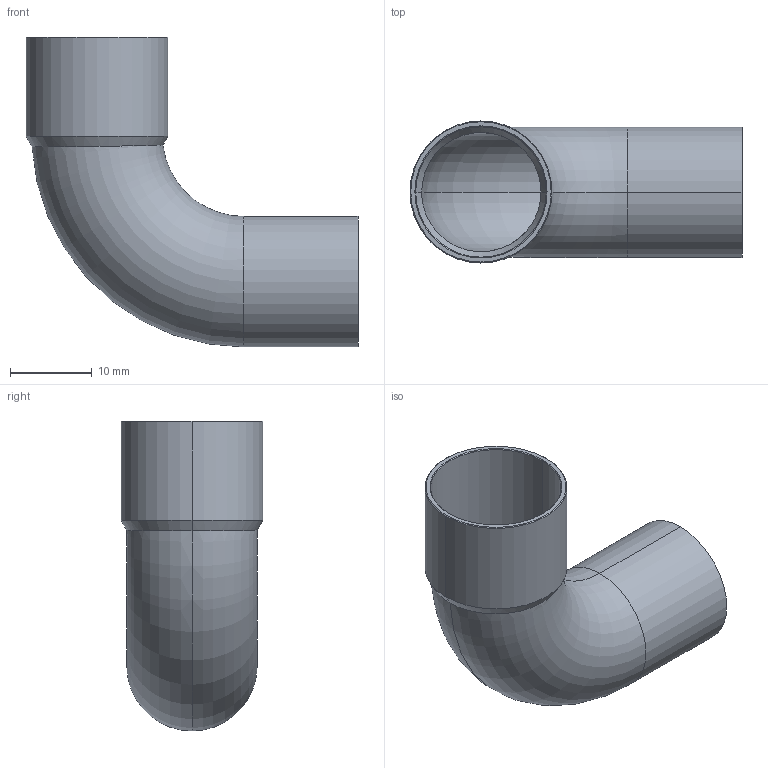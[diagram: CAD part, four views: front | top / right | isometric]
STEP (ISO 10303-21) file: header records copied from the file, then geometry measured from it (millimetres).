
FILE_DESCRIPTION((''),'2;1');
FILE_NAME('P:\Bouwmaten\z-maattekeningen 3D\5000\5001a\15001a16.stp','2005-10-04T14:34:25',('Kris'),(''),'Autodesk Inventor 8','Autodesk Inventor 8','');
FILE_SCHEMA(('AUTOMOTIVE_DESIGN { 1 0 10303 214 1 1 1 1 }'));
Length unit declared in the file: millimetre
Products named in the file (1): 15001a16
Bounding box: 40.7 x 17.4 x 38 mm (x, y, z)
Volume: 1871.2 mm3; surface area: 5412 mm2
Topology: 1 solids, 1 shells, 22 faces, 46 edges, 26 vertices
Faces by surface type: cone 8, cylinder 8, torus 4, plane 2
Entity records: 679 total; most frequent: CARTESIAN_POINT 171, DIRECTION 114, ORIENTED_EDGE 92, AXIS2_PLACEMENT_3D 49, EDGE_CURVE 46, VERTEX_POINT 26, CIRCLE 26, EDGE_LOOP 24
